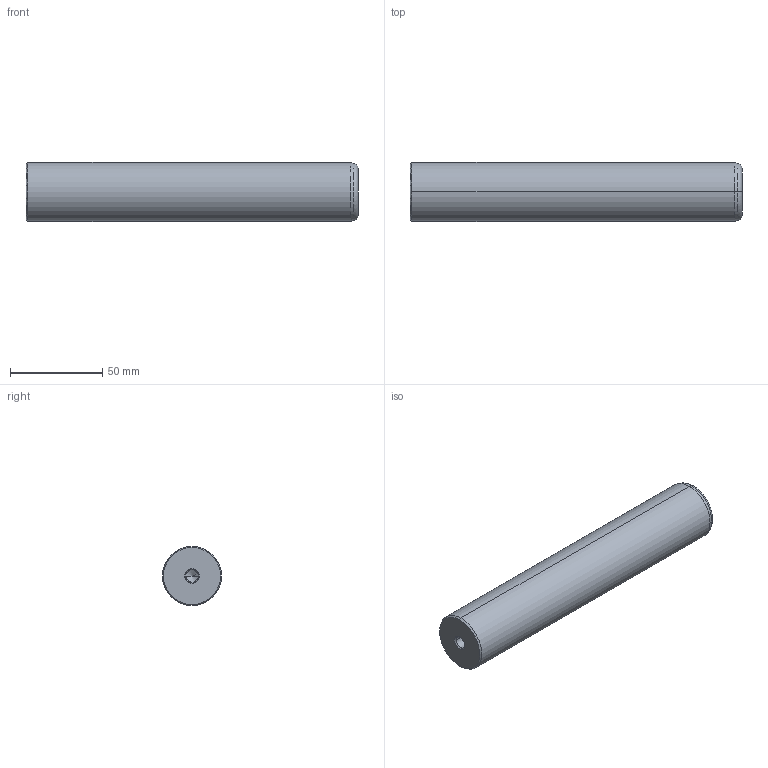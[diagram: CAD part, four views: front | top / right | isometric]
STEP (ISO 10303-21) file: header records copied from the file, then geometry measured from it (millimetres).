
FILE_DESCRIPTION(('CATIA V5 STEP Exchange'),'2;1');
FILE_NAME('C:\Users\Utente\Desktop\IO LAVORO\3D X SITO CF\X SITO\720\720-32x180.stp','2021-01-01T12:18:41+00:00',('none'),('none'),'CATIA Version 5 Release 20 GA (IN-10)','CATIA V5 STEP AP203','none');
FILE_SCHEMA(('CONFIG_CONTROL_DESIGN'));
Length unit declared in the file: millimetre
Products named in the file (1): 720-32x180
Bounding box: 180 x 32 x 32 mm (x, y, z)
Volume: 142712.1 mm3; surface area: 20488.3 mm2
Topology: 1 solids, 1 shells, 22 faces, 56 edges, 34 vertices
Faces by surface type: cone 12, cylinder 6, plane 2, torus 2
Entity records: 755 total; most frequent: CARTESIAN_POINT 216, ORIENTED_EDGE 104, DIRECTION 89, EDGE_CURVE 52, AXIS2_PLACEMENT_3D 50, VERTEX_POINT 34, CIRCLE 27, EDGE_LOOP 24
